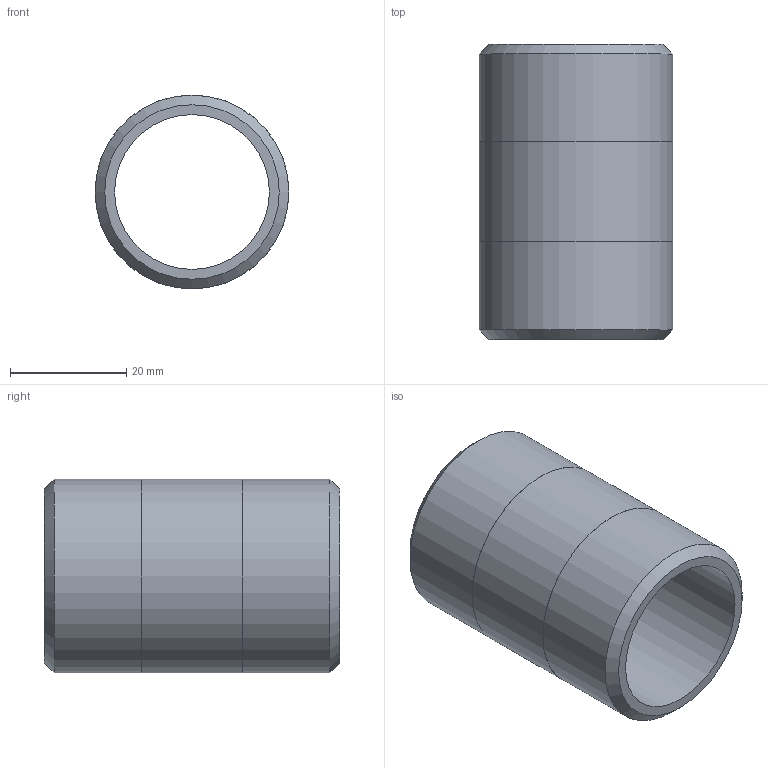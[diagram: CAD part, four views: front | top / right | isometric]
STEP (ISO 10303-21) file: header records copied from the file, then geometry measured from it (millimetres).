
FILE_DESCRIPTION(/* description */ (''),/* implementation_level */ '2;1');
FILE_NAME(/* name */ 'C:/Users/drich/Desktop/BPN1-2 v1.step',/* time_stamp */ '2020-01-03T14:15:10-06:00',/* author */ (''),/* organization */ (''),/* preprocessor_version */ 'ST-DEVELOPER v18',/* originating_system */ 'Autodesk Translation Framework v8.12.0.6',/* authorisation */ '');
FILE_SCHEMA (('AP203_CONFIGURATION_CONTROLLED_3D_DESIGN_OF_MECHANICAL_PARTS_AND_ASSEMBLIES_MIM_LF { 1 0 10303 203 3 1 4 }','AUTOMOTIVE_DESIGN { 1 0 10303 214 3 1 1 }'));
Length unit declared in the file: inch
Products named in the file (1): BPN1-2
Bounding box: 33.4 x 50.8 x 33.4 mm (x, y, z)
Volume: 15820.8 mm3; surface area: 10005 mm2
Topology: 1 solids, 1 shells, 10 faces, 24 edges, 18 vertices
Faces by surface type: cylinder 4, plane 4, cone 2
Full cylindrical faces by diameter (mm): 26.645 x1, 33.35 x2, 33.401 x1
Entity records: 360 total; most frequent: DIRECTION 64, CARTESIAN_POINT 53, ORIENTED_EDGE 48, AXIS2_PLACEMENT_3D 29, EDGE_CURVE 24, CIRCLE 18, VERTEX_POINT 18, EDGE_LOOP 14
